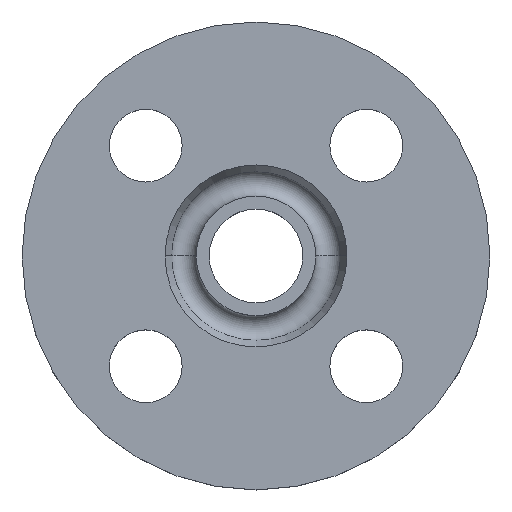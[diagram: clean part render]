
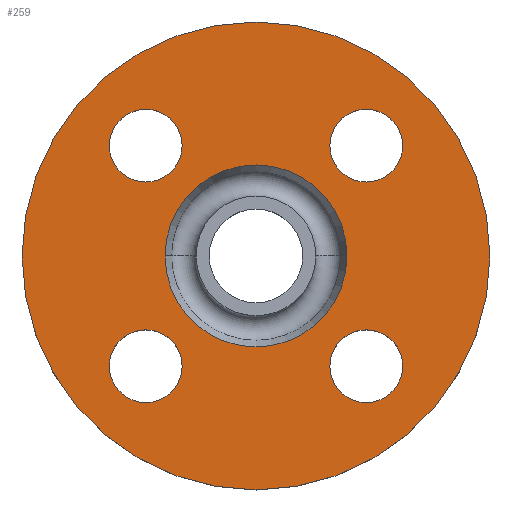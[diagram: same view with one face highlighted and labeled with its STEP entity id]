
A CAD part, top view. The second image highlights one B-rep face of the part: STEP entity #259.
In plain terms, the highlighted planar face has unit normal (0, 0, 1).
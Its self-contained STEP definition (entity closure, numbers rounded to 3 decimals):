
#1 = CARTESIAN_POINT ( 'NONE',  ( -28.213, 21.213, -2. ) ) ;
#5 = VERTEX_POINT ( 'NONE', #1 ) ;
#7 = VERTEX_POINT ( 'NONE', #600 ) ;
#14 = VERTEX_POINT ( 'NONE', #533 ) ;
#26 = VERTEX_POINT ( 'NONE', #532 ) ;
#30 = EDGE_LOOP ( 'NONE', ( #104, #105 ) ) ;
#31 = VERTEX_POINT ( 'NONE', #33 ) ;
#33 = CARTESIAN_POINT ( 'NONE',  ( -17.5, 0., -2. ) ) ;
#37 = CARTESIAN_POINT ( 'NONE',  ( -14.213, -21.213, -2. ) ) ;
#43 = EDGE_LOOP ( 'NONE', ( #97, #96 ) ) ;
#46 = EDGE_CURVE ( 'NONE', #7, #157, #582, .T. ) ;
#48 = VERTEX_POINT ( 'NONE', #520 ) ;
#49 = EDGE_LOOP ( 'NONE', ( #110, #99 ) ) ;
#52 = EDGE_LOOP ( 'NONE', ( #102, #95 ) ) ;
#53 = VERTEX_POINT ( 'NONE', #394 ) ;
#58 = CARTESIAN_POINT ( 'NONE',  ( 45., 0., -2. ) ) ;
#62 = VERTEX_POINT ( 'NONE', #37 ) ;
#64 = VERTEX_POINT ( 'NONE', #58 ) ;
#67 = VERTEX_POINT ( 'NONE', #76 ) ;
#74 = CIRCLE ( 'NONE', #584, 45. ) ;
#76 = CARTESIAN_POINT ( 'NONE',  ( -45., 0., -2. ) ) ;
#77 = AXIS2_PLACEMENT_3D ( 'NONE', #362, #364, #371 ) ;
#79 = DIRECTION ( 'NONE',  ( 0., 0., -1. ) ) ;
#85 = DIRECTION ( 'NONE',  ( 0., 0., -1. ) ) ;
#88 = DIRECTION ( 'NONE',  ( 1., 0., 0. ) ) ;
#95 = ORIENTED_EDGE ( 'NONE', *, *, #46, .T. ) ;
#96 = ORIENTED_EDGE ( 'NONE', *, *, #601, .T. ) ;
#97 = ORIENTED_EDGE ( 'NONE', *, *, #299, .T. ) ;
#99 = ORIENTED_EDGE ( 'NONE', *, *, #313, .F. ) ;
#102 = ORIENTED_EDGE ( 'NONE', *, *, #278, .T. ) ;
#103 = ORIENTED_EDGE ( 'NONE', *, *, #467, .T. ) ;
#104 = ORIENTED_EDGE ( 'NONE', *, *, #358, .T. ) ;
#105 = ORIENTED_EDGE ( 'NONE', *, *, #106, .T. ) ;
#106 = EDGE_CURVE ( 'NONE', #14, #62, #388, .T. ) ;
#107 = ORIENTED_EDGE ( 'NONE', *, *, #504, .T. ) ;
#108 = ORIENTED_EDGE ( 'NONE', *, *, #289, .T. ) ;
#110 = ORIENTED_EDGE ( 'NONE', *, *, #177, .F. ) ;
#120 = ORIENTED_EDGE ( 'NONE', *, *, #588, .T. ) ;
#157 = VERTEX_POINT ( 'NONE', #247 ) ;
#171 = DIRECTION ( 'NONE',  ( 0., 0., -1. ) ) ;
#177 = EDGE_CURVE ( 'NONE', #64, #67, #74, .T. ) ;
#232 = EDGE_LOOP ( 'NONE', ( #107, #108 ) ) ;
#247 = CARTESIAN_POINT ( 'NONE',  ( 28.213, 21.213, -2. ) ) ;
#248 = DIRECTION ( 'NONE',  ( 1., 0., 0. ) ) ;
#249 = CIRCLE ( 'NONE', #311, 17.5 ) ;
#251 = VERTEX_POINT ( 'NONE', #302 ) ;
#259 = ADVANCED_FACE ( 'NONE', ( #322, #324, #328, #336, #347, #354 ), #360, .T. ) ;
#266 = CARTESIAN_POINT ( 'NONE',  ( 21.213, -21.213, -2. ) ) ;
#267 = EDGE_LOOP ( 'NONE', ( #120, #103 ) ) ;
#268 = CARTESIAN_POINT ( 'NONE',  ( 0., 0., -2. ) ) ;
#270 = DIRECTION ( 'NONE',  ( 0., 0., -1. ) ) ;
#273 = DIRECTION ( 'NONE',  ( -1., 0., 0. ) ) ;
#278 = EDGE_CURVE ( 'NONE', #157, #7, #489, .T. ) ;
#282 = AXIS2_PLACEMENT_3D ( 'NONE', #306, #85, #88 ) ;
#286 = AXIS2_PLACEMENT_3D ( 'NONE', #478, #480, #481 ) ;
#289 = EDGE_CURVE ( 'NONE', #5, #26, #528, .T. ) ;
#299 = EDGE_CURVE ( 'NONE', #251, #31, #558, .T. ) ;
#302 = CARTESIAN_POINT ( 'NONE',  ( 17.5, 0., -2. ) ) ;
#306 = CARTESIAN_POINT ( 'NONE',  ( -21.213, -21.213, -2. ) ) ;
#310 = CIRCLE ( 'NONE', #472, 7. ) ;
#311 = AXIS2_PLACEMENT_3D ( 'NONE', #628, #337, #315 ) ;
#313 = EDGE_CURVE ( 'NONE', #67, #64, #599, .T. ) ;
#314 = AXIS2_PLACEMENT_3D ( 'NONE', #482, #171, #410 ) ;
#315 = DIRECTION ( 'NONE',  ( -1., 0., 0. ) ) ;
#322 = FACE_BOUND ( 'NONE', #267, .T. ) ;
#323 = AXIS2_PLACEMENT_3D ( 'NONE', #594, #79, #656 ) ;
#324 = FACE_BOUND ( 'NONE', #30, .T. ) ;
#328 = FACE_BOUND ( 'NONE', #232, .T. ) ;
#336 = FACE_BOUND ( 'NONE', #52, .T. ) ;
#337 = DIRECTION ( 'NONE',  ( 0., 0., -1. ) ) ;
#347 = FACE_BOUND ( 'NONE', #43, .T. ) ;
#354 = FACE_OUTER_BOUND ( 'NONE', #49, .T. ) ;
#357 = CIRCLE ( 'NONE', #367, 7. ) ;
#358 = EDGE_CURVE ( 'NONE', #62, #14, #357, .T. ) ;
#360 = PLANE ( 'NONE',  #77 ) ;
#362 = CARTESIAN_POINT ( 'NONE',  ( 45., 0., -2. ) ) ;
#364 = DIRECTION ( 'NONE',  ( 0., 0., 1. ) ) ;
#367 = AXIS2_PLACEMENT_3D ( 'NONE', #632, #636, #652 ) ;
#369 = CARTESIAN_POINT ( 'NONE',  ( -21.213, 21.213, -2. ) ) ;
#371 = DIRECTION ( 'NONE',  ( 1., 0., 0. ) ) ;
#373 = DIRECTION ( 'NONE',  ( 0., 0., -1. ) ) ;
#374 = DIRECTION ( 'NONE',  ( 1., 0., 0. ) ) ;
#388 = CIRCLE ( 'NONE', #282, 7. ) ;
#390 = AXIS2_PLACEMENT_3D ( 'NONE', #444, #458, #462 ) ;
#394 = CARTESIAN_POINT ( 'NONE',  ( 28.213, -21.213, -2. ) ) ;
#410 = DIRECTION ( 'NONE',  ( -1., 0., 0. ) ) ;
#444 = CARTESIAN_POINT ( 'NONE',  ( 21.213, 21.213, -2. ) ) ;
#445 = DIRECTION ( 'NONE',  ( 0., 0., -1. ) ) ;
#458 = DIRECTION ( 'NONE',  ( 0., 0., -1. ) ) ;
#462 = DIRECTION ( 'NONE',  ( 1., 0., 0. ) ) ;
#467 = EDGE_CURVE ( 'NONE', #48, #53, #310, .T. ) ;
#472 = AXIS2_PLACEMENT_3D ( 'NONE', #266, #445, #248 ) ;
#478 = CARTESIAN_POINT ( 'NONE',  ( -21.213, 21.213, -2. ) ) ;
#480 = DIRECTION ( 'NONE',  ( 0., 0., -1. ) ) ;
#481 = DIRECTION ( 'NONE',  ( 1., 0., 0. ) ) ;
#482 = CARTESIAN_POINT ( 'NONE',  ( 0., 0., -2. ) ) ;
#489 = CIRCLE ( 'NONE', #390, 7. ) ;
#500 = AXIS2_PLACEMENT_3D ( 'NONE', #681, #682, #683 ) ;
#504 = EDGE_CURVE ( 'NONE', #26, #5, #616, .T. ) ;
#520 = CARTESIAN_POINT ( 'NONE',  ( 14.213, -21.213, -2. ) ) ;
#525 = CARTESIAN_POINT ( 'NONE',  ( 0., 0., -2. ) ) ;
#526 = DIRECTION ( 'NONE',  ( 0., 0., -1. ) ) ;
#528 = CIRCLE ( 'NONE', #286, 7. ) ;
#529 = DIRECTION ( 'NONE',  ( -1., 0., 0. ) ) ;
#530 = AXIS2_PLACEMENT_3D ( 'NONE', #525, #526, #529 ) ;
#532 = CARTESIAN_POINT ( 'NONE',  ( -14.213, 21.213, -2. ) ) ;
#533 = CARTESIAN_POINT ( 'NONE',  ( -28.213, -21.213, -2. ) ) ;
#535 = AXIS2_PLACEMENT_3D ( 'NONE', #369, #373, #374 ) ;
#558 = CIRCLE ( 'NONE', #314, 17.5 ) ;
#582 = CIRCLE ( 'NONE', #323, 7. ) ;
#584 = AXIS2_PLACEMENT_3D ( 'NONE', #268, #270, #273 ) ;
#588 = EDGE_CURVE ( 'NONE', #53, #48, #646, .T. ) ;
#594 = CARTESIAN_POINT ( 'NONE',  ( 21.213, 21.213, -2. ) ) ;
#599 = CIRCLE ( 'NONE', #530, 45. ) ;
#600 = CARTESIAN_POINT ( 'NONE',  ( 14.213, 21.213, -2. ) ) ;
#601 = EDGE_CURVE ( 'NONE', #31, #251, #249, .T. ) ;
#616 = CIRCLE ( 'NONE', #535, 7. ) ;
#628 = CARTESIAN_POINT ( 'NONE',  ( 0., 0., -2. ) ) ;
#632 = CARTESIAN_POINT ( 'NONE',  ( -21.213, -21.213, -2. ) ) ;
#636 = DIRECTION ( 'NONE',  ( 0., 0., -1. ) ) ;
#646 = CIRCLE ( 'NONE', #500, 7. ) ;
#652 = DIRECTION ( 'NONE',  ( 1., 0., 0. ) ) ;
#656 = DIRECTION ( 'NONE',  ( 1., 0., 0. ) ) ;
#681 = CARTESIAN_POINT ( 'NONE',  ( 21.213, -21.213, -2. ) ) ;
#682 = DIRECTION ( 'NONE',  ( 0., 0., -1. ) ) ;
#683 = DIRECTION ( 'NONE',  ( 1., 0., 0. ) ) ;
